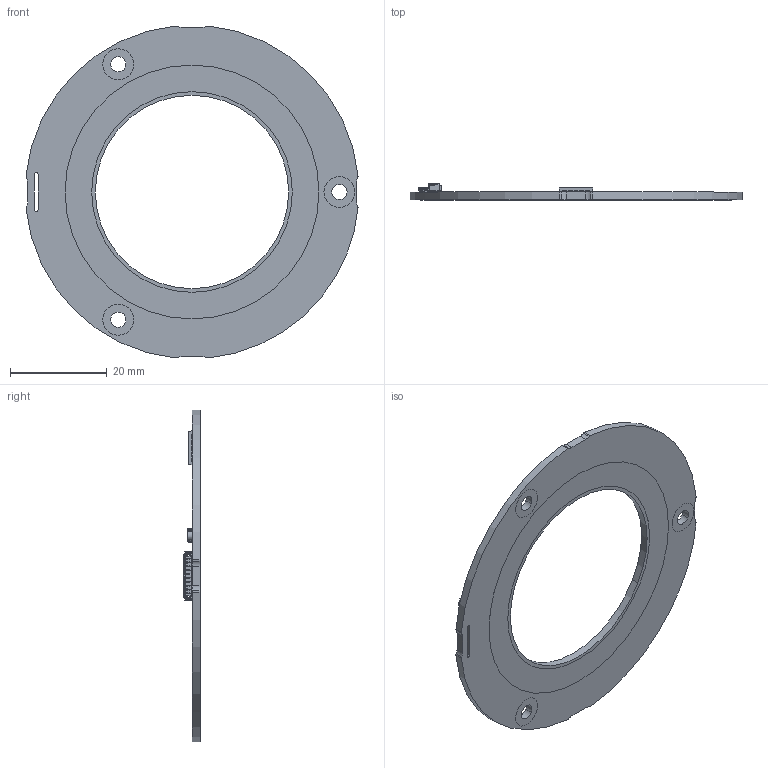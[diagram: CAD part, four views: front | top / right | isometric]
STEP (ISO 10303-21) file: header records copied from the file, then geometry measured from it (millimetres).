
FILE_DESCRIPTION (( 'STEP AP214' ), '1' );
FILE_NAME ('IRS-069_rev01.STEP', '2023-11-07T17:49:30', ( '' ), ( '' ), 'SwSTEP 2.0', 'SolidWorks 2021', '' );
FILE_SCHEMA (( 'AUTOMOTIVE_DESIGN' ));
Length unit declared in the file: millimetre
Products named in the file (1): IRS-069_rev01
Bounding box: 68.68 x 3.32 x 68.68 mm (x, y, z)
Volume: 3976.3 mm3; surface area: 5807.9 mm2
Topology: 15 solids, 15 shells, 1778 faces, 4655 edges, 2795 vertices
Faces by surface type: plane 803, cylinder 676, bspline 299
Entity records: 76014 total; most frequent: CARTESIAN_POINT 14639, ORIENTED_EDGE 9088, DIRECTION 8237, EDGE_CURVE 4544, VECTOR 2939, LINE 2939, VERTEX_POINT 2795, AXIS2_PLACEMENT_3D 2649
